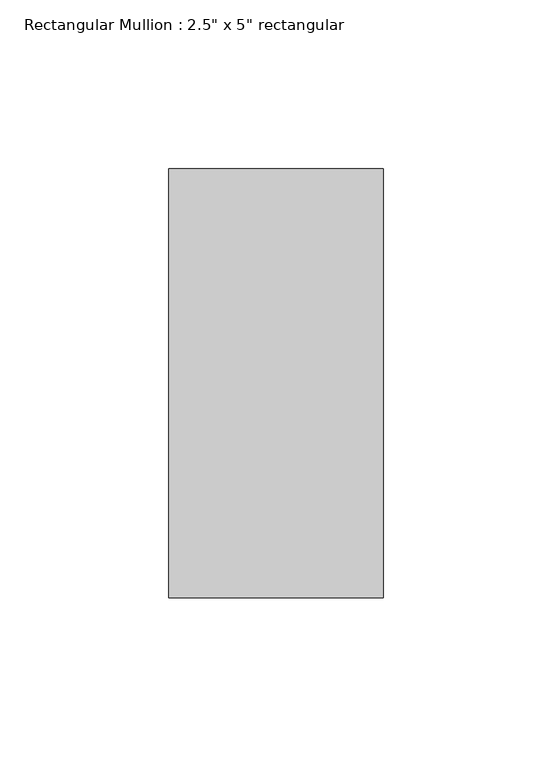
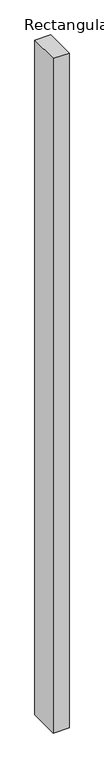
"""IFC4 building model written with IfcOpenShell, lengths in millimetres: member geometry."""

import ifcopenshell
import ifcopenshell.guid

model = None  # the IFC model being written
_history = None  # IfcOwnerHistory: only IFC2X3 demands one
_inside = {}  # id of a spatial element -> (the spatial element, [elements in it])
_under = {}  # id of a project, library or spatial element -> (it, [spatial elements below it])
_declared = {}  # id of a project -> (the project, [libraries it declares])
_typed = {}  # id of a type object -> (the type object, [elements of that type])
_made_of = {}  # id of a material, layer set ... -> (it, [elements and type objects made of it])


def new_model(schema):
    """Start an empty IFC model of exactly this schema.

    Asked for "IFC4X3", IfcOpenShell would pick the latest addendum, in which some entities
    have other attributes; the version numbers below select the first issue.
    IFC2X3 requires an IfcOwnerHistory on every rooted entity: one is made here for all.
    """
    global model, _history
    if schema == "IFC4X3":
        model = ifcopenshell.file(schema_version=(4, 3, 0, 0))
    else:
        model = ifcopenshell.file(schema=schema)
    _inside.clear()
    _under.clear()
    _declared.clear()
    _typed.clear()
    _made_of.clear()
    _history = None
    if model.schema == "IFC2X3":
        org = make("IfcOrganization", Name="unknown")
        user = make(
            "IfcPersonAndOrganization",
            ThePerson=make("IfcPerson", FamilyName="unknown"),
            TheOrganization=org,
        )
        app = make(
            "IfcApplication",
            ApplicationDeveloper=org,
            Version="unknown",
            ApplicationFullName="unknown",
            ApplicationIdentifier="unknown",
        )
        _history = make(
            "IfcOwnerHistory",
            OwningUser=user,
            OwningApplication=app,
            ChangeAction="ADDED",
            CreationDate=0,
        )
    return model


def make(cls, **values):
    """One entity of the class cls with the attributes given. An attribute that is None is left unset."""
    return model.create_entity(
        cls, **{name: value for name, value in values.items() if value is not None}
    )


def rooted(cls, **values):
    """An entity with a GlobalId (a new one), such as an element, a storey or a relation."""
    return make(cls, GlobalId=ifcopenshell.guid.new(), OwnerHistory=_history, **values)


def si_unit(unit_type, name, prefix=None):
    """IfcSIUnit, for example si_unit("LENGTHUNIT", "METRE", prefix="MILLI")."""
    return make("IfcSIUnit", UnitType=unit_type, Prefix=prefix, Name=name)


def assignment(units):
    """IfcUnitAssignment: the units of a project."""
    return None if units is None else make("IfcUnitAssignment", Units=units)


def point(xyz):
    """IfcCartesianPoint."""
    return None if xyz is None else make("IfcCartesianPoint", Coordinates=xyz)


def direction(xyz):
    """IfcDirection."""
    return None if xyz is None else make("IfcDirection", DirectionRatios=xyz)


def frame(location, z_axis=None, x_axis=None):
    """IfcAxis2Placement3D, a coordinate frame: its origin and axes. An axis left out is left unset."""
    return make(
        "IfcAxis2Placement3D",
        Location=point(location),
        Axis=direction(z_axis),
        RefDirection=direction(x_axis),
    )


def origin():
    """The frame at (0, 0, 0) with its axes left unset."""
    return frame((0.0, 0.0, 0.0))


def place(relative_to, where):
    """IfcLocalPlacement: puts the frame where relative to a parent placement (None: the world)."""
    return make(
        "IfcLocalPlacement", PlacementRelTo=relative_to, RelativePlacement=where
    )


def context(
    kind, dimensions, precision=None, world=None, true_north=None, identifier=None
):
    """IfcGeometricRepresentationContext, for example the 3D "Model" context."""
    return make(
        "IfcGeometricRepresentationContext",
        ContextIdentifier=identifier,
        ContextType=kind,
        CoordinateSpaceDimension=dimensions,
        Precision=precision,
        WorldCoordinateSystem=world,
        TrueNorth=true_north,
    )


def project(units=None, contexts=None):
    """IfcProject with its units and contexts."""
    return rooted(
        "IfcProject",
        Name="project",
        RepresentationContexts=contexts,
        UnitsInContext=assignment(units),
    )


def spatial(cls, under=None, at=None, **own):
    """A site, building, storey or space (cls), placed at a placement, below another one or the project."""
    s = rooted(cls, ObjectPlacement=at, **own)
    if under is not None:
        _under.setdefault(under.id(), (under, []))[1].append(s)
    return s


def polyline(points):
    """IfcPolyline through the points."""
    return make("IfcPolyline", Points=[point(p) for p in points])


def outline(outer, holes=None, kind="AREA"):
    """IfcArbitraryClosedProfileDef: a profile drawn as a closed curve; with holes, ...WithVoids."""
    if holes is None:
        return make("IfcArbitraryClosedProfileDef", ProfileType=kind, OuterCurve=outer)
    return make(
        "IfcArbitraryProfileDefWithVoids",
        ProfileType=kind,
        OuterCurve=outer,
        InnerCurves=holes,
    )


def extrude(swept, where, along, depth):
    """IfcExtrudedAreaSolid: the profile swept, set in the frame where, extruded along a direction by depth."""
    return make(
        "IfcExtrudedAreaSolid",
        SweptArea=swept,
        Position=where,
        ExtrudedDirection=direction(along),
        Depth=depth,
    )


def shape(context_of_items, identifier, shape_type, items):
    """IfcShapeRepresentation: the items that make up one representation, for example the "Body"."""
    return make(
        "IfcShapeRepresentation",
        ContextOfItems=context_of_items,
        RepresentationIdentifier=identifier,
        RepresentationType=shape_type,
        Items=items,
    )


def source(mapping_origin, context_of_items, identifier, shape_type, items):
    """IfcRepresentationMap: a shape defined once, which mapped items show again and again."""
    return make(
        "IfcRepresentationMap",
        MappingOrigin=mapping_origin,
        MappedRepresentation=shape(context_of_items, identifier, shape_type, items),
    )


def transform(
    local_origin,
    x_axis=None,
    y_axis=None,
    z_axis=None,
    scale=None,
    scale2=None,
    scale3=None,
    uniform=True,
):
    """IfcCartesianTransformationOperator3D, or its non-uniform kind. x_axis, y_axis, z_axis: its Axis1, 2, 3."""
    if uniform:
        return make(
            "IfcCartesianTransformationOperator3D",
            Axis1=direction(x_axis),
            Axis2=direction(y_axis),
            LocalOrigin=point(local_origin),
            Scale=scale,
            Axis3=direction(z_axis),
        )
    return make(
        "IfcCartesianTransformationOperator3DnonUniform",
        Axis1=direction(x_axis),
        Axis2=direction(y_axis),
        LocalOrigin=point(local_origin),
        Scale=scale,
        Axis3=direction(z_axis),
        Scale2=scale2,
        Scale3=scale3,
    )


def mapped(mapping_source, mapping_target):
    """IfcMappedItem: shows the shape of a source again, moved by a transform."""
    return make(
        "IfcMappedItem", MappingSource=mapping_source, MappingTarget=mapping_target
    )


def made_of(thing, what):
    """Note that an element or type object is made of a material, layer set ...; save() writes the relation."""
    if what is not None:
        _made_of.setdefault(what.id(), (what, []))[1].append(thing)
    return thing


def element(
    cls,
    number,
    at=None,
    inside=None,
    cuts=None,
    type_object=None,
    material=None,
    context=None,
    identifier="Body",
    shape_type=None,
    held_by="IfcProductDefinitionShape",
    body=None,
    shapes=None,
    **own,
):
    """One element of the class cls, such as IfcWall. Its Tag is "e" and its number.

    at: its placement. inside: the storey or other place that contains it. cuts: it is an
    opening in that element (IfcRelVoidsElement). A single representation is given by context,
    identifier, shape_type and body (its items); several are given by shapes. held_by: the class
    of the entity that holds the representations. save() writes the other relations.
    """
    e = rooted(cls, Tag="e%d" % number, ObjectPlacement=at, **own)
    if body is not None:
        shapes = [shape(context, identifier, shape_type, body)]
    if shapes is not None:
        e.Representation = make(held_by, Representations=shapes)
    if inside is not None:
        _inside.setdefault(inside.id(), (inside, []))[1].append(e)
    if cuts is not None:
        rooted(
            "IfcRelVoidsElement", RelatingBuildingElement=cuts, RelatedOpeningElement=e
        )
    if type_object is not None:
        _typed.setdefault(type_object.id(), (type_object, []))[1].append(e)
    return made_of(e, material)


def aggregate(whole, parts):
    """IfcRelAggregates: a whole, such as a stair, and the parts it consists of."""
    return rooted("IfcRelAggregates", RelatingObject=whole, RelatedObjects=parts)


def save(model, path):
    """Write the relations noted so far, then the file.

    IfcRelAggregates (storeys below a building ...), IfcRelContainedInSpatialStructure (elements
    in a storey), IfcRelDefinesByType, IfcRelAssociatesMaterial and IfcRelDeclares: one each for
    every whole, place, type object, material and project.
    """
    for whole, parts in _under.values():
        aggregate(whole, parts)
    for where, things in _inside.values():
        rooted(
            "IfcRelContainedInSpatialStructure",
            RelatedElements=things,
            RelatingStructure=where,
        )
    for kind, things in _typed.values():
        rooted("IfcRelDefinesByType", RelatedObjects=things, RelatingType=kind)
    for what, things in _made_of.values():
        rooted("IfcRelAssociatesMaterial", RelatedObjects=things, RelatingMaterial=what)
    for by, libraries in _declared.values():
        rooted("IfcRelDeclares", RelatingContext=by, RelatedDefinitions=libraries)
    model.write(path)


def member_6dba6968(model_context):
    return source(origin(), model_context, "Body", "SweptSolid", [
        extrude(outline(polyline([(31.75, 63.5), (31.75, -63.5), (-31.75, -63.5), (-31.75, 63.5), (31.75, 63.5)])), frame((0.0, 0.0, -2862.7950294), z_axis=(0.0, 0.0, 1.0), x_axis=(1.0, 0.0, 0.0)), (0.0, 0.0, 1.0), 2862.7950294),
    ])


if __name__ == "__main__":
    model = new_model("IFC4")
    model_context = context("Model", 3, world=origin())
    ifc_project = project(units=[si_unit("LENGTHUNIT", "METRE", prefix="MILLI")], contexts=[model_context])
    site = spatial("IfcSite", under=ifc_project)
    building = spatial("IfcBuilding", under=site)
    placement = place(None, origin())
    member_shape = member_6dba6968(model_context)
    element("IfcMember", 1, ObjectType="Rectangular Mullion : 2.5\" x 5\" rectangular", at=placement, inside=building, context=model_context, shape_type="MappedRepresentation", body=[
        mapped(member_shape, transform((0.0, 0.0, 0.0), x_axis=(1.0, 0.0, 0.0), y_axis=(0.0, 1.0, 0.0), z_axis=(0.0, 0.0, 1.0))),
    ])
    save(model, "model.ifc")
